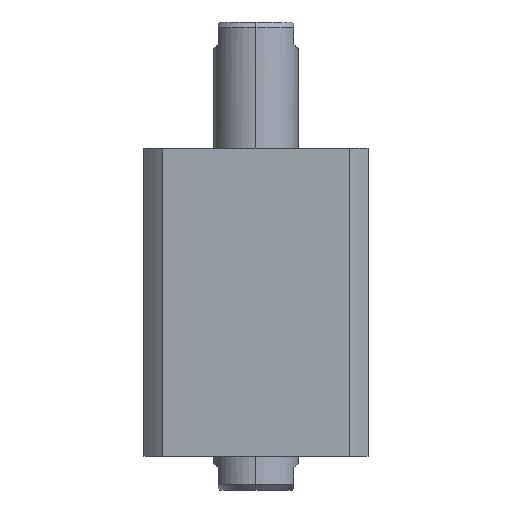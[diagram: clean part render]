
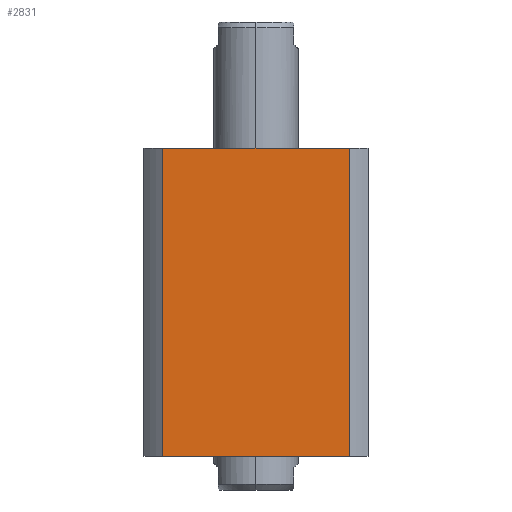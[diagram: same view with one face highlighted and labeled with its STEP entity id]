
A CAD part, left-side view. The second image highlights one B-rep face of the part: STEP entity #2831.
In plain terms, the highlighted planar face has unit normal (-1, 0, 0).
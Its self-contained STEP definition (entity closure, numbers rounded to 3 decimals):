
#105 = VECTOR ( 'NONE', #9611, 1000. ) ;
#381 = VECTOR ( 'NONE', #7738, 1000. ) ;
#768 = VERTEX_POINT ( 'NONE', #6690 ) ;
#1043 = ORIENTED_EDGE ( 'NONE', *, *, #6096, .F. ) ;
#1254 = DIRECTION ( 'NONE',  ( 0., -1., 0. ) ) ;
#1645 = ORIENTED_EDGE ( 'NONE', *, *, #6607, .T. ) ;
#2171 = VECTOR ( 'NONE', #3325, 1000. ) ;
#2831 = ADVANCED_FACE ( 'NONE', ( #6536 ), #7355, .F. ) ;
#3193 = VECTOR ( 'NONE', #1254, 1000. ) ;
#3325 = DIRECTION ( 'NONE',  ( 0., 0., -1. ) ) ;
#4120 = CARTESIAN_POINT ( 'NONE',  ( -40., -33.226, 55. ) ) ;
#4274 = CARTESIAN_POINT ( 'NONE',  ( -40., -33.226, 55. ) ) ;
#4326 = CARTESIAN_POINT ( 'NONE',  ( -40., 33.226, 55. ) ) ;
#4842 = AXIS2_PLACEMENT_3D ( 'NONE', #9674, #6623, #8215 ) ;
#5477 = LINE ( 'NONE', #4120, #2171 ) ;
#5769 = ORIENTED_EDGE ( 'NONE', *, *, #9281, .F. ) ;
#5892 = LINE ( 'NONE', #7978, #3193 ) ;
#6096 = EDGE_CURVE ( 'NONE', #6178, #6945, #5892, .T. ) ;
#6178 = VERTEX_POINT ( 'NONE', #4326 ) ;
#6527 = LINE ( 'NONE', #7698, #381 ) ;
#6536 = FACE_OUTER_BOUND ( 'NONE', #7742, .T. ) ;
#6562 = CARTESIAN_POINT ( 'NONE',  ( -40., 33.226, 55. ) ) ;
#6607 = EDGE_CURVE ( 'NONE', #768, #9612, #6527, .T. ) ;
#6623 = DIRECTION ( 'NONE',  ( 1., 0., 0. ) ) ;
#6690 = CARTESIAN_POINT ( 'NONE',  ( -40., 33.226, -55. ) ) ;
#6945 = VERTEX_POINT ( 'NONE', #4274 ) ;
#7355 = PLANE ( 'NONE',  #4842 ) ;
#7396 = ORIENTED_EDGE ( 'NONE', *, *, #8610, .T. ) ;
#7698 = CARTESIAN_POINT ( 'NONE',  ( -40., 33.226, -55. ) ) ;
#7738 = DIRECTION ( 'NONE',  ( 0., -1., 0. ) ) ;
#7742 = EDGE_LOOP ( 'NONE', ( #1645, #5769, #1043, #7396 ) ) ;
#7978 = CARTESIAN_POINT ( 'NONE',  ( -40., 33.226, 55. ) ) ;
#8215 = DIRECTION ( 'NONE',  ( 0., 1., 0. ) ) ;
#8394 = LINE ( 'NONE', #6562, #105 ) ;
#8610 = EDGE_CURVE ( 'NONE', #6178, #768, #8394, .T. ) ;
#9231 = CARTESIAN_POINT ( 'NONE',  ( -40., -33.226, -55. ) ) ;
#9281 = EDGE_CURVE ( 'NONE', #6945, #9612, #5477, .T. ) ;
#9611 = DIRECTION ( 'NONE',  ( 0., 0., -1. ) ) ;
#9612 = VERTEX_POINT ( 'NONE', #9231 ) ;
#9674 = CARTESIAN_POINT ( 'NONE',  ( -40., 33.226, 55. ) ) ;
